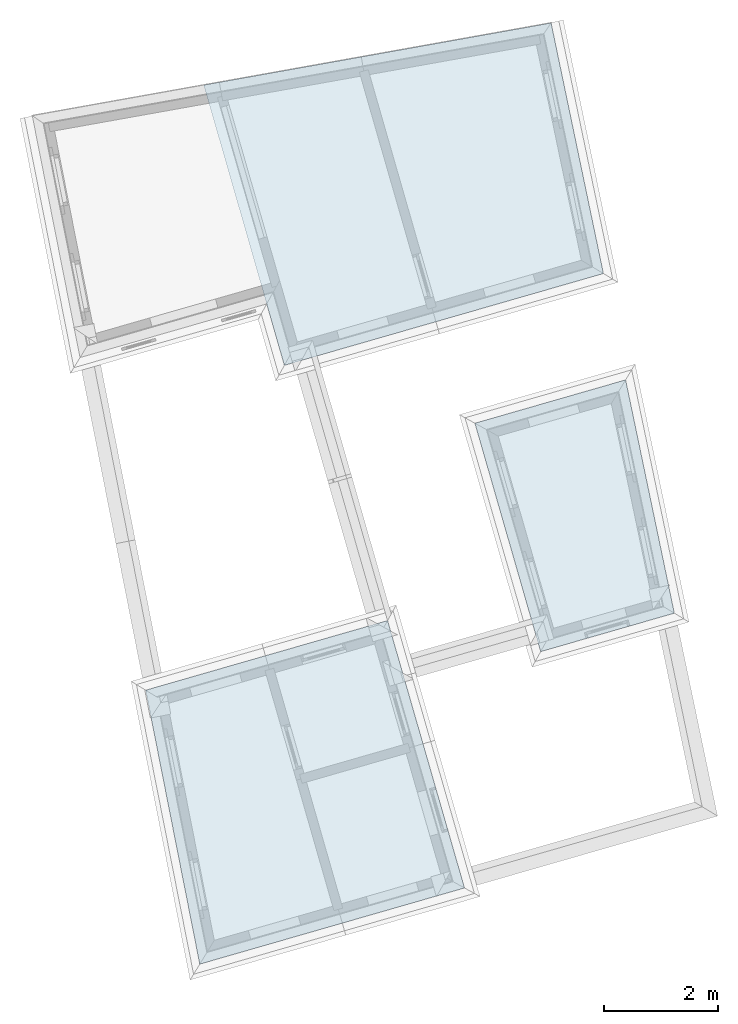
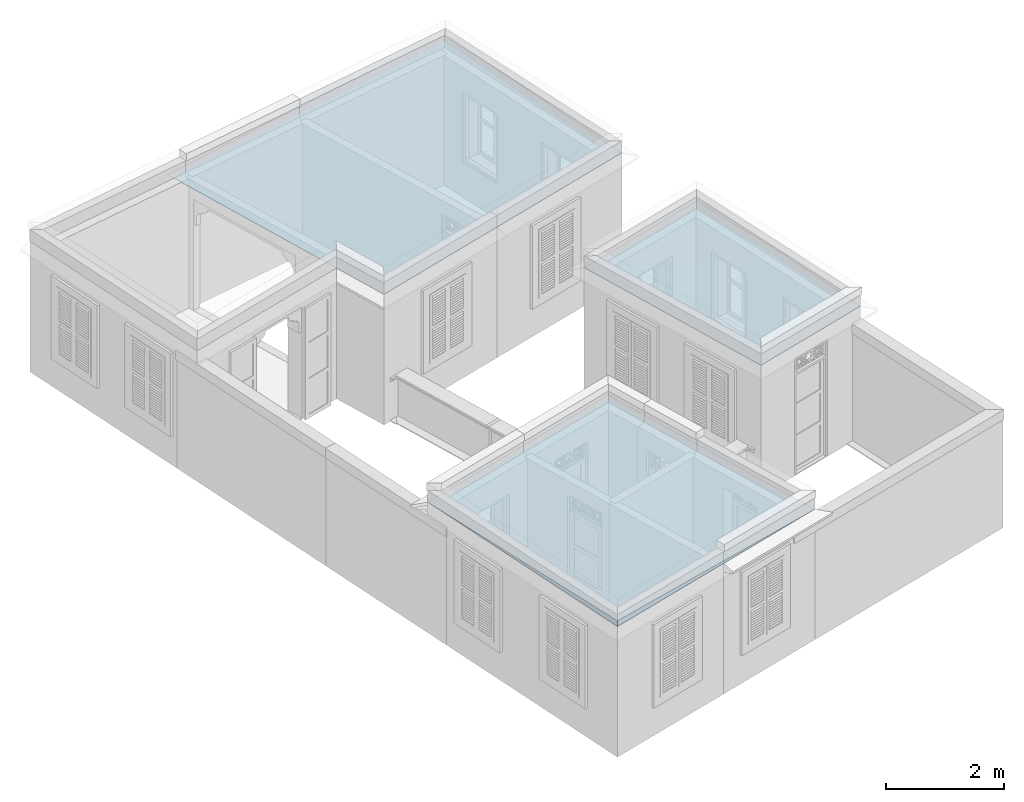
# One storey, part 22 of 22: 1 roof.
"""IFC4 building model written with IfcOpenShell, lengths in metres."""

import ifcopenshell
import ifcopenshell.guid

model = None  # the IFC model being written
_history = None  # IfcOwnerHistory: only IFC2X3 demands one
_inside = {}  # id of a spatial element -> (the spatial element, [elements in it])
_under = {}  # id of a project, library or spatial element -> (it, [spatial elements below it])
_declared = {}  # id of a project -> (the project, [libraries it declares])
_typed = {}  # id of a type object -> (the type object, [elements of that type])
_made_of = {}  # id of a material, layer set ... -> (it, [elements and type objects made of it])


def new_model(schema):
    """Start an empty IFC model of exactly this schema.

    Asked for "IFC4X3", IfcOpenShell would pick the latest addendum, in which some entities
    have other attributes; the version numbers below select the first issue.
    IFC2X3 requires an IfcOwnerHistory on every rooted entity: one is made here for all.
    """
    global model, _history
    if schema == "IFC4X3":
        model = ifcopenshell.file(schema_version=(4, 3, 0, 0))
    else:
        model = ifcopenshell.file(schema=schema)
    _inside.clear()
    _under.clear()
    _declared.clear()
    _typed.clear()
    _made_of.clear()
    _history = None
    if model.schema == "IFC2X3":
        org = make("IfcOrganization", Name="unknown")
        user = make(
            "IfcPersonAndOrganization",
            ThePerson=make("IfcPerson", FamilyName="unknown"),
            TheOrganization=org,
        )
        app = make(
            "IfcApplication",
            ApplicationDeveloper=org,
            Version="unknown",
            ApplicationFullName="unknown",
            ApplicationIdentifier="unknown",
        )
        _history = make(
            "IfcOwnerHistory",
            OwningUser=user,
            OwningApplication=app,
            ChangeAction="ADDED",
            CreationDate=0,
        )
    return model


def make(cls, **values):
    """One entity of the class cls with the attributes given. An attribute that is None is left unset."""
    return model.create_entity(
        cls, **{name: value for name, value in values.items() if value is not None}
    )


def rooted(cls, **values):
    """An entity with a GlobalId (a new one), such as an element, a storey or a relation."""
    return make(cls, GlobalId=ifcopenshell.guid.new(), OwnerHistory=_history, **values)


def si_unit(unit_type, name, prefix=None):
    """IfcSIUnit, for example si_unit("LENGTHUNIT", "METRE", prefix="MILLI")."""
    return make("IfcSIUnit", UnitType=unit_type, Prefix=prefix, Name=name)


def assignment(units):
    """IfcUnitAssignment: the units of a project."""
    return None if units is None else make("IfcUnitAssignment", Units=units)


def point(xyz):
    """IfcCartesianPoint."""
    return None if xyz is None else make("IfcCartesianPoint", Coordinates=xyz)


def direction(xyz):
    """IfcDirection."""
    return None if xyz is None else make("IfcDirection", DirectionRatios=xyz)


def frame(location, z_axis=None, x_axis=None):
    """IfcAxis2Placement3D, a coordinate frame: its origin and axes. An axis left out is left unset."""
    return make(
        "IfcAxis2Placement3D",
        Location=point(location),
        Axis=direction(z_axis),
        RefDirection=direction(x_axis),
    )


def origin():
    """The frame at (0, 0, 0) with its axes left unset."""
    return frame((0.0, 0.0, 0.0))


def origin_with_axes():
    """The frame at (0, 0, 0) with the z axis (0, 0, 1) and the x axis (1, 0, 0) written out."""
    return frame((0.0, 0.0, 0.0), z_axis=(0.0, 0.0, 1.0), x_axis=(1.0, 0.0, 0.0))


def place(relative_to, where):
    """IfcLocalPlacement: puts the frame where relative to a parent placement (None: the world)."""
    return make(
        "IfcLocalPlacement", PlacementRelTo=relative_to, RelativePlacement=where
    )


def context(
    kind, dimensions, precision=None, world=None, true_north=None, identifier=None
):
    """IfcGeometricRepresentationContext, for example the 3D "Model" context."""
    return make(
        "IfcGeometricRepresentationContext",
        ContextIdentifier=identifier,
        ContextType=kind,
        CoordinateSpaceDimension=dimensions,
        Precision=precision,
        WorldCoordinateSystem=world,
        TrueNorth=true_north,
    )


def subcontext(parent, identifier, kind, view, scale=None):
    """IfcGeometricRepresentationSubContext, for example "Body" below "Model"."""
    return make(
        "IfcGeometricRepresentationSubContext",
        ContextIdentifier=identifier,
        ContextType=kind,
        ParentContext=parent,
        TargetScale=scale,
        TargetView=view,
    )


def project(units=None, contexts=None):
    """IfcProject with its units and contexts."""
    return rooted(
        "IfcProject",
        Name="project",
        RepresentationContexts=contexts,
        UnitsInContext=assignment(units),
    )


def spatial(cls, under=None, at=None, **own):
    """A site, building, storey or space (cls), placed at a placement, below another one or the project."""
    s = rooted(cls, ObjectPlacement=at, **own)
    if under is not None:
        _under.setdefault(under.id(), (under, []))[1].append(s)
    return s


def boolean(op, a, b):
    """IfcBooleanResult of two solids."""
    return make("IfcBooleanResult", Operator=op, FirstOperand=a, SecondOperand=b)


def faces_of(points, faces, orient=None, outer=None):
    """IfcFace entities. A face is a list of loops; a loop is a list of indices into points, from 0.

    orient and outer hold one flag for each loop. By default every Orientation is true, the
    first loop of a face is its IfcFaceOuterBound and the others are IfcFaceBound.
    """
    made = []
    for i, loops in enumerate(faces):
        bounds = []
        for j, loop in enumerate(loops):
            is_outer = j == 0 if outer is None else outer[i][j]
            bounds.append(
                make(
                    "IfcFaceOuterBound" if is_outer else "IfcFaceBound",
                    Bound=make("IfcPolyLoop", Polygon=[points[k] for k in loop]),
                    Orientation=True if orient is None else orient[i][j],
                )
            )
        made.append(make("IfcFace", Bounds=bounds))
    return made


def faceted_brep(points, faces, orient=None, outer=None, voids=None):
    """IfcFacetedBrep: a solid bounded by flat faces; with voids (closed shells), ...WithVoids."""
    shared = [point(p) for p in points]
    hull = make("IfcClosedShell", CfsFaces=faces_of(shared, faces, orient, outer))
    if voids is None:
        return make("IfcFacetedBrep", Outer=hull)
    return make(
        "IfcFacetedBrepWithVoids",
        Outer=hull,
        Voids=[
            make(cls, CfsFaces=faces_of(shared, fs, o, b)) for cls, fs, o, b in voids
        ],
    )


def shape(context_of_items, identifier, shape_type, items):
    """IfcShapeRepresentation: the items that make up one representation, for example the "Body"."""
    return make(
        "IfcShapeRepresentation",
        ContextOfItems=context_of_items,
        RepresentationIdentifier=identifier,
        RepresentationType=shape_type,
        Items=items,
    )


def made_of(thing, what):
    """Note that an element or type object is made of a material, layer set ...; save() writes the relation."""
    if what is not None:
        _made_of.setdefault(what.id(), (what, []))[1].append(thing)
    return thing


def element(
    cls,
    number,
    at=None,
    inside=None,
    cuts=None,
    type_object=None,
    material=None,
    context=None,
    identifier="Body",
    shape_type=None,
    held_by="IfcProductDefinitionShape",
    body=None,
    shapes=None,
    **own,
):
    """One element of the class cls, such as IfcWall. Its Tag is "e" and its number.

    at: its placement. inside: the storey or other place that contains it. cuts: it is an
    opening in that element (IfcRelVoidsElement). A single representation is given by context,
    identifier, shape_type and body (its items); several are given by shapes. held_by: the class
    of the entity that holds the representations. save() writes the other relations.
    """
    e = rooted(cls, Tag="e%d" % number, ObjectPlacement=at, **own)
    if body is not None:
        shapes = [shape(context, identifier, shape_type, body)]
    if shapes is not None:
        e.Representation = make(held_by, Representations=shapes)
    if inside is not None:
        _inside.setdefault(inside.id(), (inside, []))[1].append(e)
    if cuts is not None:
        rooted(
            "IfcRelVoidsElement", RelatingBuildingElement=cuts, RelatedOpeningElement=e
        )
    if type_object is not None:
        _typed.setdefault(type_object.id(), (type_object, []))[1].append(e)
    return made_of(e, material)


def aggregate(whole, parts):
    """IfcRelAggregates: a whole, such as a stair, and the parts it consists of."""
    return rooted("IfcRelAggregates", RelatingObject=whole, RelatedObjects=parts)


def save(model, path):
    """Write the relations noted so far, then the file.

    IfcRelAggregates (storeys below a building ...), IfcRelContainedInSpatialStructure (elements
    in a storey), IfcRelDefinesByType, IfcRelAssociatesMaterial and IfcRelDeclares: one each for
    every whole, place, type object, material and project.
    """
    for whole, parts in _under.values():
        aggregate(whole, parts)
    for where, things in _inside.values():
        rooted(
            "IfcRelContainedInSpatialStructure",
            RelatedElements=things,
            RelatingStructure=where,
        )
    for kind, things in _typed.values():
        rooted("IfcRelDefinesByType", RelatedObjects=things, RelatingType=kind)
    for what, things in _made_of.values():
        rooted("IfcRelAssociatesMaterial", RelatedObjects=things, RelatingMaterial=what)
    for by, libraries in _declared.values():
        rooted("IfcRelDeclares", RelatingContext=by, RelatedDefinitions=libraries)
    model.write(path)


model = new_model("IFC4")

# Units and contexts
model_context = context("Model", 3, world=origin_with_axes())
body_context = subcontext(model_context, "Body", "Model", "MODEL_VIEW")
ifc_project = project(units=[si_unit("PLANEANGLEUNIT", "RADIAN"), si_unit("MASSUNIT", "GRAM", prefix="KILO"), si_unit("FORCEUNIT", "NEWTON", prefix="KILO"), si_unit("LENGTHUNIT", "METRE"), si_unit("AREAUNIT", "SQUARE_METRE"), si_unit("VOLUMEUNIT", "CUBIC_METRE")], contexts=[model_context, model_context])

# Site, building, storey
site_placement = place(None, origin_with_axes())
site = spatial("IfcSite", under=ifc_project, at=site_placement, Name="Site plot-9", CompositionType="ELEMENT")
building_placement = place(None, origin_with_axes())
building = spatial("IfcBuilding", under=site, at=building_placement, Name="Building plot-9", CompositionType="ELEMENT")
storey_placement = place(None, frame((0.0, 0.0, 2.85), z_axis=(0.0, 0.0, 1.0), x_axis=(1.0, 0.0, 0.0)))
storey = spatial("IfcBuildingStorey", under=building, at=storey_placement, Name="plot-9 1", CompositionType="ELEMENT", Elevation=2.85)

# Roof
roof_placement = place(building_placement, origin())
element("IfcRoof", 1, at=roof_placement, inside=storey, Name="Roof", PredefinedType="FREEFORM", context=body_context, shape_type="CSG", body=[
    boolean("UNION", boolean("UNION", boolean("UNION", faceted_brep([(-14.452895, -1.634197, 5.55), (-12.114812, -0.96143, 5.55), (-12.540802, 1.078865, 5.601963), (-13.030171, 0.938053, 5.601963), (-12.966793, 3.119161, 5.55), (-15.602421, 2.360777, 5.55)], [[[0, 1, 2, 3]], [[4, 5, 3, 2]], [[5, 4, 1, 0]], [[5, 0, 3]], [[1, 4, 2]]]), faceted_brep([(-15.7851, -5.768146, 5.55), (-17.130756, -1.091555, 5.55), (-20.425993, -7.049262, 5.670355), (-20.415856, -7.100614, 5.670466), (-20.415856, -7.100614, 5.55), (-21.361782, -2.309003, 5.55)], [[[0, 1, 2, 3]], [[4, 5, 1, 0]], [[3, 4, 0]], [[2, 1, 5]], [[2, 5, 4, 3]]])), faceted_brep([(-22.510459, 3.509641, 5.55), (-13.584021, 6.0754, 5.55), (-14.270413, 9.362898, 5.63373), (-23.345688, 7.74051, 5.657424), (-23.345688, 7.74051, 5.55), (-14.270413, 9.362898, 5.55)], [[[0, 1, 2, 3]], [[4, 5, 1, 0]], [[3, 4, 0]], [[2, 1, 5]], [[2, 5, 4, 3]]])), faceted_brep([(-18.936039, 3.374224, 5.55), (-13.355322, 4.980036, 5.55), (-14.270413, 9.362898, 5.661625), (-15.772165, 9.09443, 5.665557), (-20.346676, 8.276644, 5.55), (-14.270413, 9.362898, 5.55)], [[[0, 1, 2, 3]], [[4, 5, 1, 0]], [[3, 4, 0]], [[2, 1, 5]], [[2, 5, 4, 3]]])),
])

save(model, "model.ifc")
